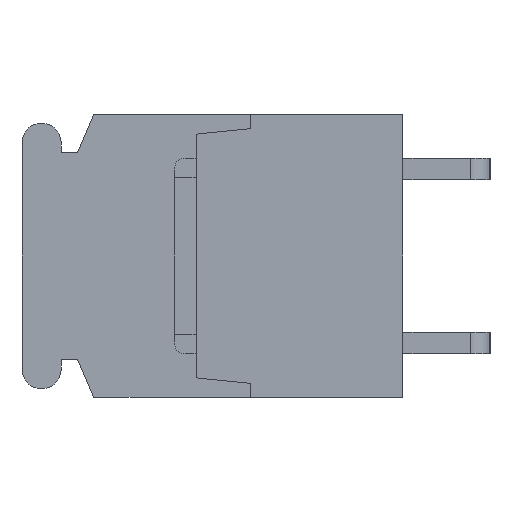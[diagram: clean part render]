
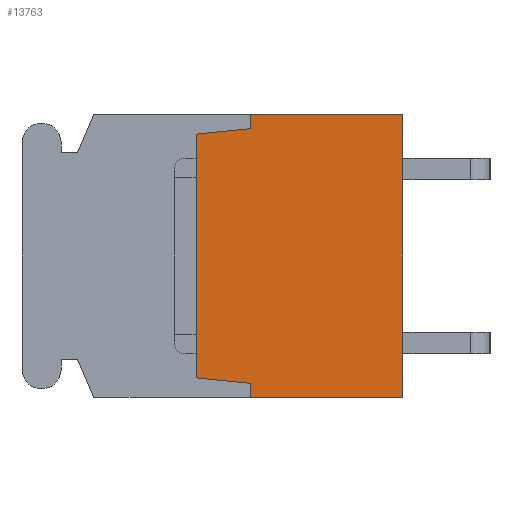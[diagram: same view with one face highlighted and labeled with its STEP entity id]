
A CAD part, left-side view. The second image highlights one B-rep face of the part: STEP entity #13763.
In plain terms, the highlighted planar face has unit normal (-1, 0, 0).
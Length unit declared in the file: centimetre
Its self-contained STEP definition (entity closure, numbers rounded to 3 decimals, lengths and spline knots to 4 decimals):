
#1142=VECTOR('',#15499,1.);
#1189=VECTOR('',#15562,1.);
#1558=VECTOR('',#16472,1.);
#1707=VECTOR('',#16823,1.);
#1708=VECTOR('',#16824,1.);
#1709=VECTOR('',#16825,1.);
#1710=VECTOR('',#16826,1.);
#1711=VECTOR('',#16827,1.);
#2696=LINE('',#19418,#1142);
#2743=LINE('',#19515,#1189);
#3112=LINE('',#20702,#1558);
#3261=LINE('',#21158,#1707);
#3262=LINE('',#21160,#1708);
#3263=LINE('',#21162,#1709);
#3264=LINE('',#21164,#1710);
#3265=LINE('',#21166,#1711);
#4234=VERTEX_POINT('',#19417);
#4235=VERTEX_POINT('',#19419);
#4251=VERTEX_POINT('',#19471);
#4272=VERTEX_POINT('',#19514);
#4754=VERTEX_POINT('',#21159);
#4755=VERTEX_POINT('',#21161);
#4756=VERTEX_POINT('',#21163);
#4757=VERTEX_POINT('',#21165);
#6055=EDGE_CURVE('',#4234,#4235,#2696,.T.);
#6104=EDGE_CURVE('',#4272,#4251,#2743,.T.);
#6636=EDGE_CURVE('',#4251,#4234,#3112,.T.);
#6843=EDGE_CURVE('',#4754,#4272,#3261,.T.);
#6844=EDGE_CURVE('',#4755,#4754,#3262,.T.);
#6845=EDGE_CURVE('',#4756,#4755,#3263,.T.);
#6846=EDGE_CURVE('',#4757,#4756,#3264,.T.);
#6847=EDGE_CURVE('',#4235,#4757,#3265,.T.);
#10425=ORIENTED_EDGE('',*,*,#6636,.F.);
#10426=ORIENTED_EDGE('',*,*,#6104,.F.);
#10427=ORIENTED_EDGE('',*,*,#6843,.F.);
#10428=ORIENTED_EDGE('',*,*,#6844,.F.);
#10429=ORIENTED_EDGE('',*,*,#6845,.F.);
#10430=ORIENTED_EDGE('',*,*,#6846,.F.);
#10431=ORIENTED_EDGE('',*,*,#6847,.F.);
#10432=ORIENTED_EDGE('',*,*,#6055,.F.);
#12103=EDGE_LOOP('',(#10425,#10426,#10427,#10428,#10429,#10430,#10431,#10432));
#12973=FACE_BOUND('',#12103,.T.);
#13763=ADVANCED_FACE('',(#12973),#14388,.F.);
#14388=PLANE('',#23417);
#15499=DIRECTION('',(0.,1.,0.));
#15562=DIRECTION('',(0.,-1.,0.));
#16472=DIRECTION('',(0.,0.,-1.));
#16822=DIRECTION('',(1.,0.,0.));
#16823=DIRECTION('',(0.,0.,1.));
#16824=DIRECTION('',(0.,-0.995,0.1));
#16825=DIRECTION('',(0.,0.,1.));
#16826=DIRECTION('',(0.,0.995,0.1));
#16827=DIRECTION('',(0.,0.,1.));
#19417=CARTESIAN_POINT('',(-1.84,0.,-0.65));
#19418=CARTESIAN_POINT('',(-1.84,0.,-0.65));
#19419=CARTESIAN_POINT('',(-1.84,0.7,-0.65));
#19471=CARTESIAN_POINT('',(-1.84,0.,0.65));
#19514=CARTESIAN_POINT('',(-1.84,0.7,0.65));
#19515=CARTESIAN_POINT('',(-1.84,0.7,0.65));
#20702=CARTESIAN_POINT('',(-1.84,0.,0.65));
#21157=CARTESIAN_POINT('',(-1.84,0.4626,0.));
#21158=CARTESIAN_POINT('',(-1.84,0.7,0.585));
#21159=CARTESIAN_POINT('',(-1.84,0.7,0.585));
#21160=CARTESIAN_POINT('',(-1.84,0.95,0.56));
#21161=CARTESIAN_POINT('',(-1.84,0.95,0.56));
#21162=CARTESIAN_POINT('',(-1.84,0.95,-0.56));
#21163=CARTESIAN_POINT('',(-1.84,0.95,-0.56));
#21164=CARTESIAN_POINT('',(-1.84,0.7,-0.585));
#21165=CARTESIAN_POINT('',(-1.84,0.7,-0.585));
#21166=CARTESIAN_POINT('',(-1.84,0.7,-0.65));
#23417=AXIS2_PLACEMENT_3D('',#21157,#16822,$);
